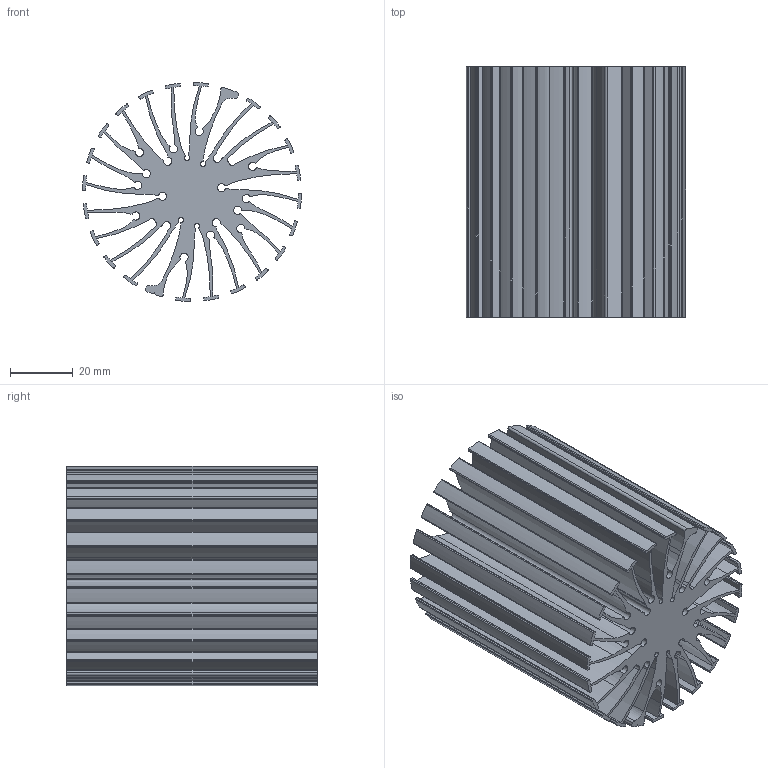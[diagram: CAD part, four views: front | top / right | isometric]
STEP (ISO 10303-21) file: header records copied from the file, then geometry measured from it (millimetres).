
FILE_DESCRIPTION (( 'STEP AP203' ), '1' );
FILE_NAME ('XSA-213.STEP', '2014-04-02T09:01:35', ( '' ), ( '' ), 'SwSTEP 2.0', 'SolidWorks 2013', '' );
FILE_SCHEMA (( 'CONFIG_CONTROL_DESIGN' ));
Length unit declared in the file: millimetre
Products named in the file (1): XSA-213
Bounding box: 69.99 x 80 x 69.99 mm (x, y, z)
Volume: 112480 mm3; surface area: 104874.8 mm2
Topology: 1 solids, 1 shells, 348 faces, 1038 edges, 692 vertices
Faces by surface type: cylinder 283, plane 65
Entity records: 12085 total; most frequent: DIRECTION 2302, CARTESIAN_POINT 2079, ORIENTED_EDGE 2076, EDGE_CURVE 1038, AXIS2_PLACEMENT_3D 915, VERTEX_POINT 692, CIRCLE 566, LINE 472
